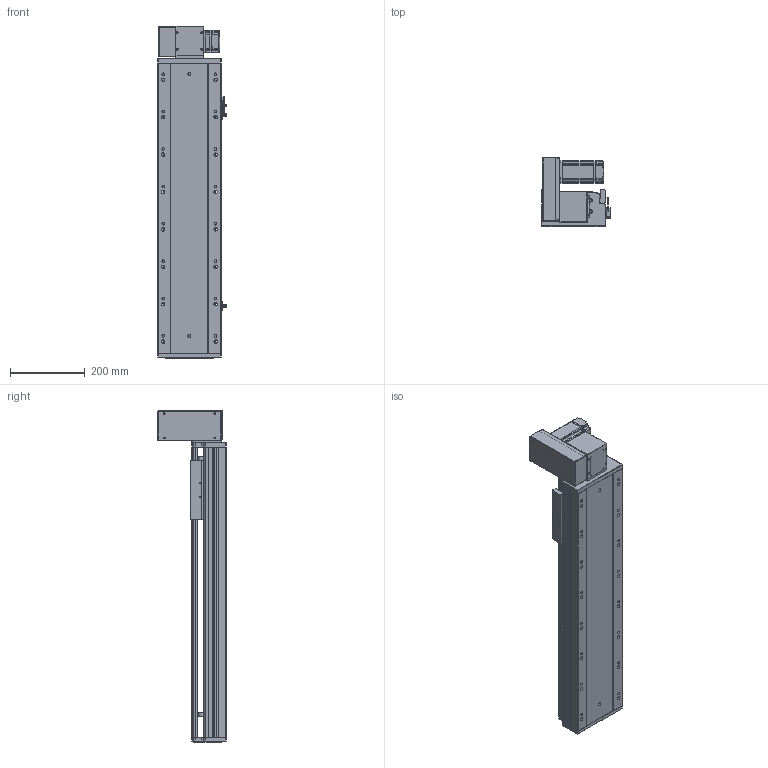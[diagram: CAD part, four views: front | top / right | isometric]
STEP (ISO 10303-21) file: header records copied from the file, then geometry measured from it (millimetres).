
FILE_DESCRIPTION (( 'STEP AP203' ), '1' );
FILE_NAME ('RY170-T-300-UL-P400W.SLDASM_500.step', '2021-03-02T02:12:13', ( '盈信电脑' ), ( '东莞市道滘镇水果街19号' ), 'SwSTEP 2.0', 'SolidWorks 2012', '' );
FILE_SCHEMA (( 'CONFIG_CONTROL_DESIGN' ));
Length unit declared in the file: millimetre
Products named in the file (18): RY170-T-300-UL-P400W.SLDASM_500; RY170同步轮电机安装板(400W); RY170-T蹟翐M4; RY170肮祭謫萇儂欶; 15; RY120-T主同步轮轴承压盖; RY170-T肮祭謫裔啣; 滅袉蝶18-10; RY170-T肮祭湍揤踡輸2; RY170翋肮祭謫釱; RY170-T肮祭湍揤踡輸1; RY170肮祭謫ヶ裔啣; 覜茼ん672; RY170綴裔啣; RY170-T-300肮祭謫倰第裔啣-DL_500; RY170外置感应片(200共用）; RY170-T-300肮祭謫倰第菁釱-DL_500; RY170肮祭湍臏賑輸
Assembly tree (20 placements, depth 2):
  RY170-T-300-UL-P400W.SLDASM_500
    RY170-T-300肮祭謫倰第菁釱-DL_500
    RY170肮祭湍臏賑輸
    RY170-T-300肮祭謫倰第裔啣-DL_500
    RY170綴裔啣
    覜茼ん672  x3
    RY170外置感应片(200共用）
    RY170肮祭謫ヶ裔啣
    RY170翋肮祭謫釱
    RY170-T肮祭湍揤踡輸1
    RY170-T肮祭湍揤踡輸2
    RY170-T肮祭謫裔啣
    滅袉蝶18-10  x2
    RY120-T主同步轮轴承压盖
    RY170肮祭謫萇儂欶
    RY170同步轮电机安装板(400W)
    RY170-T蹟翐M4
    15
Bounding box: 183.7 x 184 x 888 mm (x, y, z)
Volume: 4780362.1 mm3; surface area: 1586815.8 mm2
Topology: 20 solids, 20 shells, 2521 faces, 7054 edges, 4541 vertices
Faces by surface type: plane 1147, cylinder 1140, cone 204, bspline 30
Entity records: 80808 total; most frequent: CARTESIAN_POINT 18177, ORIENTED_EDGE 12816, DIRECTION 12516, EDGE_CURVE 6408, AXIS2_PLACEMENT_3D 4382, VERTEX_POINT 4209, LINE 3752, VECTOR 3752
